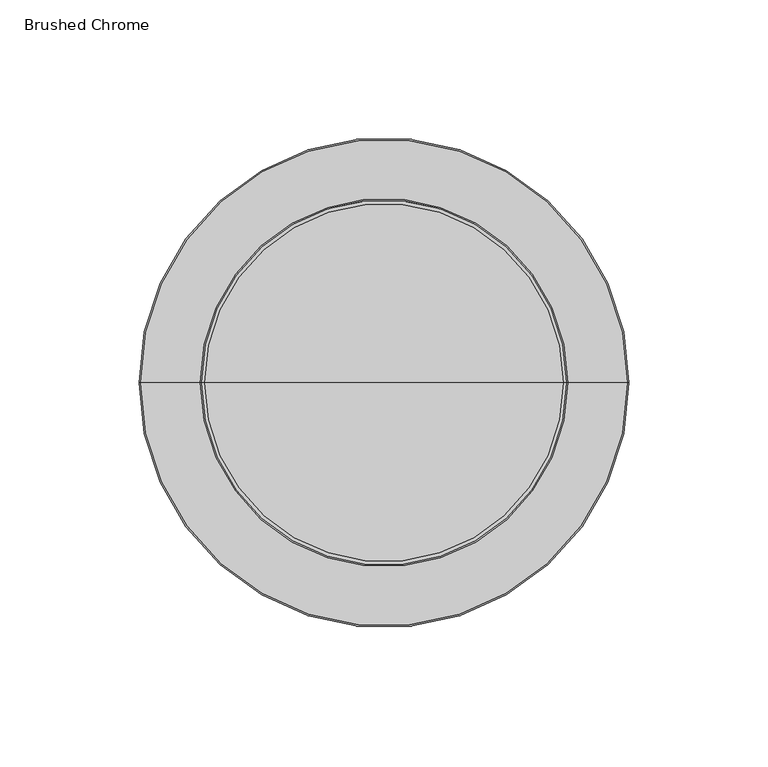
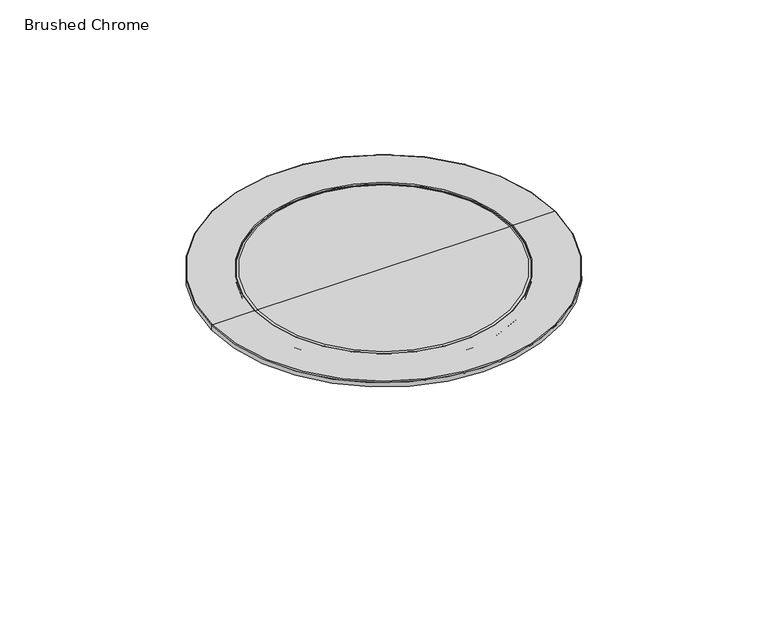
"""IFC4 building model written with IfcOpenShell, lengths in millimetres: flow terminal geometry, z_PlumFixt_Zenith_Font : Brushed Chrome."""

from ifc_helpers import new_model, si_unit, point, frame, origin, place, context, project, spatial, polyline, circle_curve, ellipse_curve, trimmed, source, transform, mapped, element, save
from ifc_brep_helpers import plane_surface, cylinder_surface, revolved_surface, advanced_brep


def brushed_chrome_743c02cf(model_context):
    return source(origin(), model_context, "Body", "AdvancedBrep", [
        advanced_brep(
        [(1.0, 15.0, 0.1), (65.3663195, 15.0, 0.1), (-63.3663195, 15.0, 0.1), (-63.3663195, 15.0, 2.6559366), (65.3663195, 15.0, 2.6559366), (1.0, 15.0, 2.6559366)],
        [
            (0, 1),
            (1, 2, circle_curve(frame((1.0, 15.0, 0.1), z_axis=(0.0, 0.0, -1.0), x_axis=(1.0, 0.0, 0.0)), 64.3663195)),
            (2, 0),
            (2, 1, circle_curve(frame((1.0, 15.0, 0.1), z_axis=(0.0, 0.0, -1.0), x_axis=(1.0, 0.0, 0.0)), 64.3663195)),
            (3, 4, circle_curve(frame((1.0, 15.0, 2.6559366), z_axis=(0.0, 0.0, 1.0), x_axis=(1.0, 0.0, 0.0)), 64.3663195)),
            (4, 5),
            (5, 3),
            (4, 3, circle_curve(frame((1.0, 15.0, 2.6559366), z_axis=(0.0, 0.0, 1.0), x_axis=(1.0, 0.0, 0.0)), 64.3663195)),
            (1, 4, circle_curve(frame((65.3663195, 15.0, 1.3779683), z_axis=(0.0, -1.0, 0.0), x_axis=(-1.0, 0.0, 0.0)), 1.2779683)),
            (3, 2, circle_curve(frame((-63.3663195, 15.0, 1.3779683), z_axis=(0.0, -1.0, 0.0), x_axis=(1.0, 0.0, 0.0)), 1.2779683)),
        ],
        [
            plane_surface(frame((1.0, 15.0, 0.1), z_axis=(0.0, 0.0, -1.0), x_axis=(1.0, 0.0, 0.0))),
            plane_surface(frame((1.0, 15.0, 2.6559366), z_axis=(0.0, 0.0, 1.0), x_axis=(1.0, 0.0, 0.0))),
            revolved_surface(trimmed(ellipse_curve(frame((65.3663195, 15.0, 1.3779683), z_axis=(0.0, 1.0, 0.0), x_axis=(-1.0, 0.0, 0.0)), 1.2779683, 1.2779683), [point((65.3663195, 15.0, 2.6559366))], [point((65.3663195, 15.0, 0.1))], True, "CARTESIAN"), (1.0, 15.0, 4.8540205), (0.0, 0.0, -1.0)),
        ],
        [
            (0, [[1, 2, 3]]),
            (0, [[-3, 4, -1]]),
            (1, [[5, 6, 7]]),
            (1, [[8, -7, -6]]),
            (2, [[-2, 9, -5, 10]]),
            (2, [[-4, -10, -8, -9]]),
        ],
    ),
        advanced_brep(
        [(89.0, 15.0, 2.2382465), (-87.0, 15.0, 2.2382465), (-87.0, 15.0, 0.0), (89.0, 15.0, 0.0), (67.1855481, 15.0, 2.7559366), (-65.1855481, 15.0, 2.7559366), (-86.4823099, 15.0, 2.7559366), (88.4823099, 15.0, 2.7559366), (66.6855481, 15.0, 0.2275593), (-64.6855481, 15.0, 0.2275593), (-64.6855481, 15.0, 2.2559366), (66.6855481, 15.0, 2.2559366), (66.025305, 15.0, -0.4326837), (-64.025305, 15.0, -0.4326837), (56.874679, 15.0, -0.4326837), (-54.874679, 15.0, -0.4326837), (14.2138244, 15.0, -13.0209137), (-12.2138244, 15.0, -13.0209137), (11.1534844, 15.0, -15.4463365), (-9.1534844, 15.0, -15.4463365), (10.8552137, 15.0, -17.1325251), (-8.8552137, 15.0, -17.1325251), (10.8552137, 15.0, -43.2459588), (-8.8552137, 15.0, -43.2459588), (11.9183378, 15.0, -43.2459588), (-9.9183378, 15.0, -43.2459588), (11.9183378, 15.0, -17.0853121), (-9.9183378, 15.0, -17.0853121), (13.1793161, 15.0, -16.1581596), (-11.1793161, 15.0, -16.1581596), (57.5638274, 15.0, -3.4310432), (-55.5638274, 15.0, -3.4310432), (65.7813093, 15.0, -3.4310432), (-63.7813093, 15.0, -3.4310432), (69.2123525, 15.0, 0.0), (-67.2123525, 15.0, 0.0)],
        [
            (0, 1, circle_curve(frame((1.0, 15.0, 2.2382465), z_axis=(0.0, 0.0, -1.0), x_axis=(-1.0, 0.0, 0.0)), 88.0)),
            (1, 2),
            (2, 3, circle_curve(frame((1.0, 15.0, 0.0), z_axis=(0.0, 0.0, 1.0), x_axis=(-1.0, 0.0, 0.0)), 88.0)),
            (3, 0),
            (1, 0, circle_curve(frame((1.0, 15.0, 2.2382465), z_axis=(0.0, 0.0, -1.0), x_axis=(-1.0, 0.0, 0.0)), 88.0)),
            (3, 2, circle_curve(frame((1.0, 15.0, 0.0), z_axis=(0.0, 0.0, 1.0), x_axis=(-1.0, 0.0, 0.0)), 88.0)),
            (4, 5, circle_curve(frame((1.0, 15.0, 2.7559366), z_axis=(0.0, 0.0, -1.0), x_axis=(-1.0, 0.0, 0.0)), 66.1855481)),
            (5, 6),
            (6, 7, circle_curve(frame((1.0, 15.0, 2.7559366), z_axis=(0.0, 0.0, 1.0), x_axis=(-1.0, 0.0, 0.0)), 87.4823099)),
            (7, 4),
            (5, 4, circle_curve(frame((1.0, 15.0, 2.7559366), z_axis=(0.0, 0.0, -1.0), x_axis=(-1.0, 0.0, 0.0)), 66.1855481)),
            (7, 6, circle_curve(frame((1.0, 15.0, 2.7559366), z_axis=(0.0, 0.0, 1.0), x_axis=(-1.0, 0.0, 0.0)), 87.4823099)),
            (8, 9, circle_curve(frame((1.0, 15.0, 0.2275593), z_axis=(0.0, 0.0, -1.0), x_axis=(-1.0, 0.0, 0.0)), 65.6855481)),
            (9, 10),
            (10, 11, circle_curve(frame((1.0, 15.0, 2.2559366), z_axis=(0.0, 0.0, 1.0), x_axis=(-1.0, 0.0, 0.0)), 65.6855481)),
            (11, 8),
            (9, 8, circle_curve(frame((1.0, 15.0, 0.2275593), z_axis=(0.0, 0.0, -1.0), x_axis=(-1.0, 0.0, 0.0)), 65.6855481)),
            (11, 10, circle_curve(frame((1.0, 15.0, 2.2559366), z_axis=(0.0, 0.0, 1.0), x_axis=(-1.0, 0.0, 0.0)), 65.6855481)),
            (12, 13, circle_curve(frame((1.0, 15.0, -0.4326837), z_axis=(0.0, 0.0, -1.0), x_axis=(-1.0, 0.0, 0.0)), 65.025305)),
            (13, 9, circle_curve(frame((-64.025305, 15.0, 0.2275593), z_axis=(0.0, 1.0, 0.0), x_axis=(-1.0, 0.0, 0.0)), 0.660243)),
            (8, 12, circle_curve(frame((66.025305, 15.0, 0.2275593), z_axis=(0.0, 1.0, 0.0), x_axis=(1.0, 0.0, 0.0)), 0.660243)),
            (13, 12, circle_curve(frame((1.0, 15.0, -0.4326837), z_axis=(0.0, 0.0, -1.0), x_axis=(-1.0, 0.0, 0.0)), 65.025305)),
            (14, 15, circle_curve(frame((1.0, 15.0, -0.4326837), z_axis=(0.0, 0.0, -1.0), x_axis=(-1.0, 0.0, 0.0)), 55.874679)),
            (15, 13),
            (12, 14),
            (15, 14, circle_curve(frame((1.0, 15.0, -0.4326837), z_axis=(0.0, 0.0, -1.0), x_axis=(-1.0, 0.0, 0.0)), 55.874679)),
            (16, 17, circle_curve(frame((1.0, 15.0, -13.0209137), z_axis=(0.0, 0.0, -1.0), x_axis=(-1.0, 0.0, 0.0)), 13.2138244)),
            (17, 15, circle_curve(frame((3.7421456, 15.0, 119.6348555), z_axis=(0.0, 1.0, 0.0), x_axis=(-1.0, 0.0, 0.0)), 133.6119235)),
            (14, 16, circle_curve(frame((-1.7421456, 15.0, 119.6348555), z_axis=(0.0, 1.0, 0.0), x_axis=(1.0, 0.0, 0.0)), 133.6119235)),
            (17, 16, circle_curve(frame((1.0, 15.0, -13.0209137), z_axis=(0.0, 0.0, -1.0), x_axis=(-1.0, 0.0, 0.0)), 13.2138244)),
            (18, 19, circle_curve(frame((1.0, 15.0, -15.4463365), z_axis=(0.0, 0.0, -1.0), x_axis=(-1.0, 0.0, 0.0)), 10.1534844)),
            (19, 17, circle_curve(frame((-12.6595708, 15.0, -16.7267887), z_axis=(0.0, -1.0, 0.0), x_axis=(-1.0, 0.0, 0.0)), 3.7325861)),
            (16, 18, circle_curve(frame((14.6595708, 15.0, -16.7267887), z_axis=(0.0, -1.0, 0.0), x_axis=(1.0, 0.0, 0.0)), 3.7325861)),
            (19, 18, circle_curve(frame((1.0, 15.0, -15.4463365), z_axis=(0.0, 0.0, -1.0), x_axis=(-1.0, 0.0, 0.0)), 10.1534844)),
            (20, 21, circle_curve(frame((1.0, 15.0, -17.1325251), z_axis=(0.0, 0.0, -1.0), x_axis=(-1.0, 0.0, 0.0)), 9.8552137)),
            (21, 19, circle_curve(frame((-13.7705428, 15.0, -17.1325251), z_axis=(0.0, -1.0, 0.0), x_axis=(-1.0, 0.0, 0.0)), 4.9153291)),
            (18, 20, circle_curve(frame((15.7705428, 15.0, -17.1325251), z_axis=(0.0, -1.0, 0.0), x_axis=(1.0, 0.0, 0.0)), 4.9153291)),
            (21, 20, circle_curve(frame((1.0, 15.0, -17.1325251), z_axis=(0.0, 0.0, -1.0), x_axis=(-1.0, 0.0, 0.0)), 9.8552137)),
            (22, 23, circle_curve(frame((1.0, 15.0, -43.2459588), z_axis=(0.0, 0.0, -1.0), x_axis=(-1.0, 0.0, 0.0)), 9.8552137)),
            (23, 21),
            (20, 22),
            (23, 22, circle_curve(frame((1.0, 15.0, -43.2459588), z_axis=(0.0, 0.0, -1.0), x_axis=(-1.0, 0.0, 0.0)), 9.8552137)),
            (24, 25, circle_curve(frame((1.0, 15.0, -43.2459588), z_axis=(0.0, 0.0, -1.0), x_axis=(-1.0, 0.0, 0.0)), 10.9183378)),
            (25, 23),
            (22, 24),
            (25, 24, circle_curve(frame((1.0, 15.0, -43.2459588), z_axis=(0.0, 0.0, -1.0), x_axis=(-1.0, 0.0, 0.0)), 10.9183378)),
            (26, 27, circle_curve(frame((1.0, 15.0, -17.0853121), z_axis=(0.0, 0.0, -1.0), x_axis=(-1.0, 0.0, 0.0)), 10.9183378)),
            (27, 25),
            (24, 26),
            (27, 26, circle_curve(frame((1.0, 15.0, -17.0853121), z_axis=(0.0, 0.0, -1.0), x_axis=(-1.0, 0.0, 0.0)), 10.9183378)),
            (28, 29, circle_curve(frame((1.0, 15.0, -16.1581596), z_axis=(0.0, 0.0, -1.0), x_axis=(-1.0, 0.0, 0.0)), 12.1793161)),
            (29, 27, circle_curve(frame((-11.3499863, 15.0, -17.7113565), z_axis=(0.0, 1.0, 0.0), x_axis=(-1.0, 0.0, 0.0)), 1.5625457)),
            (26, 28, circle_curve(frame((13.3499863, 15.0, -17.7113565), z_axis=(0.0, 1.0, 0.0), x_axis=(1.0, 0.0, 0.0)), 1.5625457)),
            (29, 28, circle_curve(frame((1.0, 15.0, -16.1581596), z_axis=(0.0, 0.0, -1.0), x_axis=(-1.0, 0.0, 0.0)), 12.1793161)),
            (30, 31, circle_curve(frame((1.0, 15.0, -3.4310432), z_axis=(0.0, 0.0, -1.0), x_axis=(-1.0, 0.0, 0.0)), 56.5638274)),
            (31, 29, circle_curve(frame((3.7421456, 15.0, 119.6356758), z_axis=(0.0, -1.0, 0.0), x_axis=(-1.0, 0.0, 0.0)), 136.6111845)),
            (28, 30, circle_curve(frame((-1.7421456, 15.0, 119.6356758), z_axis=(0.0, -1.0, 0.0), x_axis=(1.0, 0.0, 0.0)), 136.6111845)),
            (31, 30, circle_curve(frame((1.0, 15.0, -3.4310432), z_axis=(0.0, 0.0, -1.0), x_axis=(-1.0, 0.0, 0.0)), 56.5638274)),
            (32, 33, circle_curve(frame((1.0, 15.0, -3.4310432), z_axis=(0.0, 0.0, -1.0), x_axis=(-1.0, 0.0, 0.0)), 64.7813093)),
            (33, 31),
            (30, 32),
            (33, 32, circle_curve(frame((1.0, 15.0, -3.4310432), z_axis=(0.0, 0.0, -1.0), x_axis=(-1.0, 0.0, 0.0)), 64.7813093)),
            (34, 35, circle_curve(frame((1.0, 15.0, 0.0), z_axis=(0.0, 0.0, -1.0), x_axis=(-1.0, 0.0, 0.0)), 68.2123525)),
            (35, 33, circle_curve(frame((-63.7813093, 15.0, 0.0), z_axis=(0.0, -1.0, 0.0), x_axis=(-1.0, 0.0, 0.0)), 3.4310432)),
            (32, 34, circle_curve(frame((65.7813093, 15.0, 0.0), z_axis=(0.0, -1.0, 0.0), x_axis=(1.0, 0.0, 0.0)), 3.4310432)),
            (35, 34, circle_curve(frame((1.0, 15.0, 0.0), z_axis=(0.0, 0.0, -1.0), x_axis=(-1.0, 0.0, 0.0)), 68.2123525)),
            (2, 35),
            (34, 3),
            (10, 5, circle_curve(frame((-65.1855481, 15.0, 2.2559366), z_axis=(0.0, -1.0, 0.0), x_axis=(-1.0, 0.0, 0.0)), 0.5)),
            (4, 11, circle_curve(frame((67.1855481, 15.0, 2.2559366), z_axis=(0.0, -1.0, 0.0), x_axis=(1.0, 0.0, 0.0)), 0.5)),
            (6, 1, circle_curve(frame((-86.4823099, 15.0, 2.2382465), z_axis=(0.0, -1.0, 0.0), x_axis=(-1.0, 0.0, 0.0)), 0.5176901)),
            (0, 7, circle_curve(frame((88.4823099, 15.0, 2.2382465), z_axis=(0.0, -1.0, 0.0), x_axis=(1.0, 0.0, 0.0)), 0.5176901)),
        ],
        [
            cylinder_surface(frame((1.0, 15.0, 250.9742157), z_axis=(0.0, 0.0, 1.0), x_axis=(-1.0, 0.0, 0.0)), 88.0),
            plane_surface(frame((1.0, 15.0, 2.7559366), z_axis=(0.0, 0.0, 1.0), x_axis=(-1.0, 0.0, 0.0))),
            revolved_surface(polyline([(-64.6855481, 15.0, 2.2559366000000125), (-64.6855481, 15.0, 0.2275592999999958)]), (1.0, 15.0, 250.9742157), (0.0, 0.0, 1.0)),
            revolved_surface(trimmed(ellipse_curve(frame((-64.025305, 15.0, 0.2275593), z_axis=(0.0, -1.0, 0.0), x_axis=(-1.0, 0.0, 0.0)), 0.660243, 0.660243), [point((-64.6855481, 15.0, 0.2275593))], [point((-64.025305, 15.0, -0.4326837))], True, "CARTESIAN"), (1.0, 15.0, 250.9742157), (0.0, 0.0, 1.0)),
            plane_surface(frame((1.0, 15.0, -0.4326837), z_axis=(0.0, 0.0, 1.0), x_axis=(-1.0, 0.0, 0.0))),
            revolved_surface(trimmed(ellipse_curve(frame((3.7421456, 15.0, 119.6348555), z_axis=(0.0, -1.0, 0.0), x_axis=(-1.0, 0.0, 0.0)), 133.6119235, 133.6119235), [point((-54.874679, 15.0, -0.4326837))], [point((-12.2138244, 15.0, -13.0209137))], True, "CARTESIAN"), (1.0, 15.0, 250.9742157), (0.0, 0.0, 1.0)),
            revolved_surface(trimmed(ellipse_curve(frame((-12.6595708, 15.0, -16.7267887), z_axis=(0.0, 1.0, 0.0), x_axis=(-1.0, 0.0, 0.0)), 3.7325861, 3.7325861), [point((-12.2138244, 15.0, -13.0209137))], [point((-9.1534844, 15.0, -15.4463365))], True, "CARTESIAN"), (1.0, 15.0, 250.9742157), (0.0, 0.0, 1.0)),
            revolved_surface(trimmed(ellipse_curve(frame((-13.7705428, 15.0, -17.1325251), z_axis=(0.0, 1.0, 0.0), x_axis=(-1.0, 0.0, 0.0)), 4.9153291, 4.9153291), [point((-9.1534844, 15.0, -15.4463365))], [point((-8.8552137, 15.0, -17.1325251))], True, "CARTESIAN"), (1.0, 15.0, 250.9742157), (0.0, 0.0, 1.0)),
            revolved_surface(polyline([(-8.8552137, 15.0, -17.13252510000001), (-8.8552137, 15.0, -43.24595879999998)]), (1.0, 15.0, 250.9742157), (0.0, 0.0, 1.0)),
            plane_surface(frame((1.0, 15.0, -43.2459588), z_axis=(0.0, 0.0, -1.0), x_axis=(-1.0, 0.0, 0.0))),
            cylinder_surface(frame((1.0, 15.0, 250.9742157), z_axis=(0.0, 0.0, 1.0), x_axis=(-1.0, 0.0, 0.0)), 10.9183378),
            revolved_surface(trimmed(ellipse_curve(frame((-11.3499863, 15.0, -17.7113565), z_axis=(0.0, -1.0, 0.0), x_axis=(-1.0, 0.0, 0.0)), 1.5625457, 1.5625457), [point((-9.9183378, 15.0, -17.0853121))], [point((-11.1793161, 15.0, -16.1581596))], True, "CARTESIAN"), (1.0, 15.0, 250.9742157), (0.0, 0.0, 1.0)),
            revolved_surface(trimmed(ellipse_curve(frame((3.7421456, 15.0, 119.6356758), z_axis=(0.0, 1.0, 0.0), x_axis=(-1.0, 0.0, 0.0)), 136.6111845, 136.6111845), [point((-11.1793161, 15.0, -16.1581596))], [point((-55.5638274, 15.0, -3.4310432))], True, "CARTESIAN"), (1.0, 15.0, 250.9742157), (0.0, 0.0, 1.0)),
            plane_surface(frame((1.0, 15.0, -3.4310432), z_axis=(0.0, 0.0, -1.0), x_axis=(-1.0, 0.0, 0.0))),
            revolved_surface(trimmed(ellipse_curve(frame((-63.7813093, 15.0, 0.0), z_axis=(0.0, 1.0, 0.0), x_axis=(-1.0, 0.0, 0.0)), 3.4310432, 3.4310432), [point((-63.7813093, 15.0, -3.4310432))], [point((-67.2123525, 15.0, 0.0))], True, "CARTESIAN"), (1.0, 15.0, 250.9742157), (0.0, 0.0, 1.0)),
            plane_surface(frame((1.0, 15.0, 0.0), z_axis=(0.0, 0.0, -1.0), x_axis=(-1.0, 0.0, 0.0))),
            revolved_surface(trimmed(ellipse_curve(frame((-65.1855481, 15.0, 2.2559366), z_axis=(0.0, 1.0, 0.0), x_axis=(-1.0, 0.0, 0.0)), 0.5, 0.5), [point((-65.1855481, 15.0, 2.7559366))], [point((-64.6855481, 15.0, 2.2559366))], True, "CARTESIAN"), (1.0, 15.0, 250.9742157), (0.0, 0.0, 1.0)),
            revolved_surface(trimmed(ellipse_curve(frame((-86.4823099, 15.0, 2.2382465), z_axis=(0.0, 1.0, 0.0), x_axis=(-1.0, 0.0, 0.0)), 0.5176901, 0.5176901), [point((-87.0, 15.0, 2.2382465))], [point((-86.4823099, 15.0, 2.7559366))], True, "CARTESIAN"), (1.0, 15.0, 250.9742157), (0.0, 0.0, 1.0)),
        ],
        [
            (0, [[1, 2, 3, 4]]),
            (0, [[5, -4, 6, -2]]),
            (1, [[7, 8, 9, 10]]),
            (1, [[11, -10, 12, -8]]),
            (2, [[13, 14, 15, 16]]),
            (2, [[17, -16, 18, -14]]),
            (3, [[19, 20, -13, 21]]),
            (3, [[22, -21, -17, -20]]),
            (4, [[23, 24, -19, 25]]),
            (4, [[26, -25, -22, -24]]),
            (5, [[27, 28, -23, 29]]),
            (5, [[30, -29, -26, -28]]),
            (6, [[31, 32, -27, 33]]),
            (6, [[34, -33, -30, -32]]),
            (7, [[35, 36, -31, 37]]),
            (7, [[38, -37, -34, -36]]),
            (8, [[39, 40, -35, 41]]),
            (8, [[42, -41, -38, -40]]),
            (9, [[43, 44, -39, 45]]),
            (9, [[46, -45, -42, -44]]),
            (10, [[47, 48, -43, 49]]),
            (10, [[50, -49, -46, -48]]),
            (11, [[51, 52, -47, 53]]),
            (11, [[54, -53, -50, -52]]),
            (12, [[55, 56, -51, 57]]),
            (12, [[58, -57, -54, -56]]),
            (13, [[59, 60, -55, 61]]),
            (13, [[62, -61, -58, -60]]),
            (14, [[63, 64, -59, 65]]),
            (14, [[66, -65, -62, -64]]),
            (15, [[-3, 67, -63, 68]]),
            (15, [[-6, -68, -66, -67]]),
            (16, [[-15, 69, -7, 70]]),
            (16, [[-18, -70, -11, -69]]),
            (17, [[-9, 71, -1, 72]]),
            (17, [[-12, -72, -5, -71]]),
        ],
    ),
    ])


if __name__ == "__main__":
    model = new_model("IFC4")
    model_context = context("Model", 3, world=origin())
    ifc_project = project(units=[si_unit("LENGTHUNIT", "METRE", prefix="MILLI")], contexts=[model_context])
    site = spatial("IfcSite", under=ifc_project)
    building = spatial("IfcBuilding", under=site)
    placement = place(None, origin())
    brushed_chrome_shape = brushed_chrome_743c02cf(model_context)
    element("IfcFlowTerminal", 1, ObjectType="z_PlumFixt_Zenith_Font : Brushed Chrome", at=placement, inside=building, context=model_context, shape_type="MappedRepresentation", body=[
        mapped(brushed_chrome_shape, transform((0.0, 0.0, 0.0), x_axis=(1.0, 0.0, 0.0), y_axis=(0.0, 1.0, 0.0), z_axis=(0.0, 0.0, 1.0))),
    ])
    save(model, "model.ifc")
